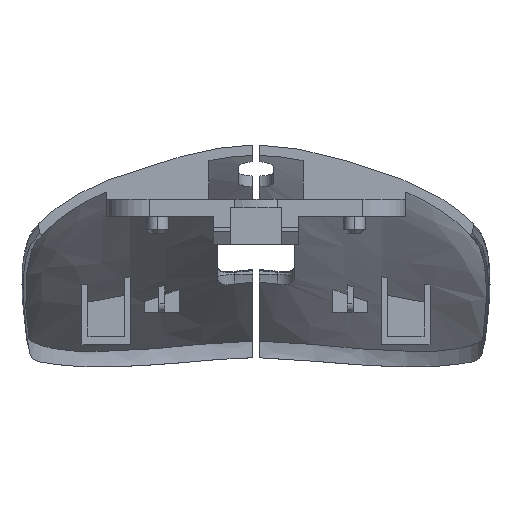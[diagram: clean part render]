
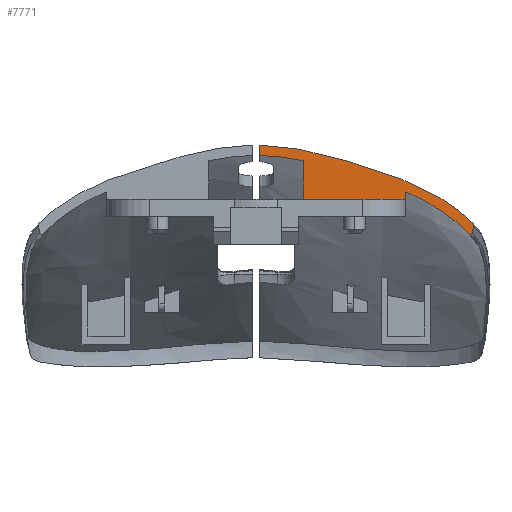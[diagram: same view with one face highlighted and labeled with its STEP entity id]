
A CAD part, front view. The second image highlights one B-rep face of the part: STEP entity #7771.
In plain terms, the highlighted planar face has unit normal (0, -1, 0).
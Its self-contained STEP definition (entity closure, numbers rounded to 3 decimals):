
#975=DIRECTION('',(-1.,0.,0.));
#976=VECTOR('',#975,12.);
#977=CARTESIAN_POINT('',(17.5,14.4,31.2));
#978=LINE('',#977,#976);
#1408=CARTESIAN_POINT('',(24.948,14.4,27.084));
#1409=CARTESIAN_POINT('',(24.571,14.4,27.535));
#1410=CARTESIAN_POINT('',(23.694,14.4,28.42));
#1411=CARTESIAN_POINT('',(21.987,14.4,29.706));
#1412=CARTESIAN_POINT('',(19.952,14.4,30.942));
#1413=CARTESIAN_POINT('',(18.356,14.4,31.694));
#1414=CARTESIAN_POINT('',(17.5,14.4,32.054));
#1474=CARTESIAN_POINT('',(5.5,14.4,35.726));
#1475=CARTESIAN_POINT('',(4.887,14.4,35.851));
#1476=CARTESIAN_POINT('',(3.692,14.4,36.062));
#1477=CARTESIAN_POINT('',(1.992,14.4,36.258));
#1478=CARTESIAN_POINT('',(0.921,14.4,36.312));
#1479=CARTESIAN_POINT('',(0.4,14.4,36.321));
#1644=DIRECTION('',(0.,0.,1.));
#1645=VECTOR('',#1644,0.854);
#1646=CARTESIAN_POINT('',(17.5,14.4,31.2));
#1647=LINE('',#1646,#1645);
#1648=DIRECTION('',(0.,0.,-1.));
#1649=VECTOR('',#1648,1.22);
#1650=CARTESIAN_POINT('',(0.4,14.4,37.542));
#1651=LINE('',#1650,#1649);
#1677=CARTESIAN_POINT('',(25.432,14.4,28.185));
#1678=CARTESIAN_POINT('',(25.417,14.4,28.073));
#1679=CARTESIAN_POINT('',(25.388,14.4,27.85));
#1680=CARTESIAN_POINT('',(25.345,14.4,27.517));
#1681=CARTESIAN_POINT('',(25.316,14.4,27.295));
#1682=CARTESIAN_POINT('',(25.302,14.4,27.184));
#1759=CARTESIAN_POINT('',(25.302,14.4,27.184));
#1760=CARTESIAN_POINT('',(25.263,14.4,27.173));
#1761=CARTESIAN_POINT('',(25.184,14.4,27.15));
#1762=CARTESIAN_POINT('',(25.066,14.4,27.117));
#1763=CARTESIAN_POINT('',(24.987,14.4,27.095));
#1764=CARTESIAN_POINT('',(24.948,14.4,27.084));
#1843=CARTESIAN_POINT('',(25.349,14.4,28.434));
#1844=CARTESIAN_POINT('',(25.371,14.4,28.411));
#1845=CARTESIAN_POINT('',(25.405,14.4,28.362));
#1846=CARTESIAN_POINT('',(25.434,14.4,28.275));
#1847=CARTESIAN_POINT('',(25.435,14.4,28.216));
#1848=CARTESIAN_POINT('',(25.432,14.4,28.185));
#1905=CARTESIAN_POINT('',(0.4,14.4,37.542));
#1906=CARTESIAN_POINT('',(0.972,14.4,37.532));
#1907=CARTESIAN_POINT('',(2.19,14.4,37.472));
#1908=CARTESIAN_POINT('',(4.245,14.4,37.222));
#1909=CARTESIAN_POINT('',(6.495,14.4,36.789));
#1910=CARTESIAN_POINT('',(8.976,14.4,36.161));
#1911=CARTESIAN_POINT('',(11.462,14.4,35.435));
#1912=CARTESIAN_POINT('',(13.66,14.4,34.754));
#1913=CARTESIAN_POINT('',(15.64,14.4,34.092));
#1914=CARTESIAN_POINT('',(17.485,14.4,33.394));
#1915=CARTESIAN_POINT('',(19.296,14.4,32.6));
#1916=CARTESIAN_POINT('',(20.95,14.4,31.742));
#1917=CARTESIAN_POINT('',(22.384,14.4,30.861));
#1918=CARTESIAN_POINT('',(23.574,14.4,30.02));
#1919=CARTESIAN_POINT('',(24.559,14.4,29.215));
#1920=CARTESIAN_POINT('',(25.104,14.4,28.69));
#1921=CARTESIAN_POINT('',(25.349,14.4,28.434));
#2391=CARTESIAN_POINT('',(17.5,14.4,32.054));
#2678=DIRECTION('',(0.,0.,1.));
#2679=VECTOR('',#2678,4.526);
#2680=CARTESIAN_POINT('',(5.5,14.4,31.2));
#2681=LINE('',#2680,#2679);
#4046=CARTESIAN_POINT('',(17.5,14.4,31.2));
#4047=VERTEX_POINT('',#4046);
#4048=CARTESIAN_POINT('',(5.5,14.4,31.2));
#4049=VERTEX_POINT('',#4048);
#4114=CARTESIAN_POINT('',(5.5,14.4,35.726));
#4115=VERTEX_POINT('',#4114);
#4301=VERTEX_POINT('',#2391);
#4302=VERTEX_POINT('',#1677);
#4303=VERTEX_POINT('',#1682);
#4304=VERTEX_POINT('',#1843);
#4305=VERTEX_POINT('',#1905);
#4306=CARTESIAN_POINT('',(0.4,14.4,36.321));
#4307=VERTEX_POINT('',#4306);
#4308=VERTEX_POINT('',#1408);
#7747=CARTESIAN_POINT('',(0.,14.4,0.));
#7748=DIRECTION('',(0.,1.,0.));
#7749=DIRECTION('',(-1.,0.,0.));
#7750=AXIS2_PLACEMENT_3D('',#7747,#7748,#7749);
#7751=PLANE('',#7750);
#7753=ORIENTED_EDGE('',*,*,#7752,.T.);
#7755=ORIENTED_EDGE('',*,*,#7754,.T.);
#7756=ORIENTED_EDGE('',*,*,#7658,.T.);
#7758=ORIENTED_EDGE('',*,*,#7757,.F.);
#7759=ORIENTED_EDGE('',*,*,#6965,.T.);
#7761=ORIENTED_EDGE('',*,*,#7760,.T.);
#7762=ORIENTED_EDGE('',*,*,#7686,.T.);
#7764=ORIENTED_EDGE('',*,*,#7763,.F.);
#7766=ORIENTED_EDGE('',*,*,#7765,.T.);
#7768=ORIENTED_EDGE('',*,*,#7767,.T.);
#7769=EDGE_LOOP('',(#7753,#7755,#7756,#7758,#7759,#7761,#7762,#7764,#7766,
#7768));
#7770=FACE_OUTER_BOUND('',#7769,.F.);
#7771=ADVANCED_FACE('',(#7770),#7751,.F.);
#1415=B_SPLINE_CURVE_WITH_KNOTS('',3,(#1408,#1409,#1410,#1411,#1412,#1413,
#1414),.UNSPECIFIED.,.F.,.F.,(4,1,1,1,4),(0.,0.25,0.5,0.75,1.),
.UNSPECIFIED.);
#1480=B_SPLINE_CURVE_WITH_KNOTS('',3,(#1474,#1475,#1476,#1477,#1478,#1479),
.UNSPECIFIED.,.F.,.F.,(4,1,1,4),(0.,0.333,0.667,1.),
.UNSPECIFIED.);
#1683=B_SPLINE_CURVE_WITH_KNOTS('',3,(#1677,#1678,#1679,#1680,#1681,#1682),
.UNSPECIFIED.,.F.,.F.,(4,1,1,4),(0.,0.333,0.667,1.),
.UNSPECIFIED.);
#1765=B_SPLINE_CURVE_WITH_KNOTS('',3,(#1759,#1760,#1761,#1762,#1763,#1764),
.UNSPECIFIED.,.F.,.F.,(4,1,1,4),(0.,0.333,0.667,1.),
.UNSPECIFIED.);
#1849=B_SPLINE_CURVE_WITH_KNOTS('',3,(#1843,#1844,#1845,#1846,#1847,#1848),
.UNSPECIFIED.,.F.,.F.,(4,1,1,4),(0.,0.333,0.667,1.),
.UNSPECIFIED.);
#1922=B_SPLINE_CURVE_WITH_KNOTS('',3,(#1905,#1906,#1907,#1908,#1909,#1910,#1911,
#1912,#1913,#1914,#1915,#1916,#1917,#1918,#1919,#1920,#1921),.UNSPECIFIED.,.F.,
.F.,(4,1,1,1,1,1,1,1,1,1,1,1,1,1,4),(0.,0.071,0.143,
0.214,0.286,0.357,0.429,0.5,
0.571,0.643,0.714,0.786,
0.857,0.929,1.),.UNSPECIFIED.);
#6965=EDGE_CURVE('',#4047,#4049,#978,.T.);
#7658=EDGE_CURVE('',#4308,#4301,#1415,.T.);
#7686=EDGE_CURVE('',#4115,#4307,#1480,.T.);
#7752=EDGE_CURVE('',#4302,#4303,#1683,.T.);
#7754=EDGE_CURVE('',#4303,#4308,#1765,.T.);
#7757=EDGE_CURVE('',#4047,#4301,#1647,.T.);
#7760=EDGE_CURVE('',#4049,#4115,#2681,.T.);
#7763=EDGE_CURVE('',#4305,#4307,#1651,.T.);
#7765=EDGE_CURVE('',#4305,#4304,#1922,.T.);
#7767=EDGE_CURVE('',#4304,#4302,#1849,.T.);
